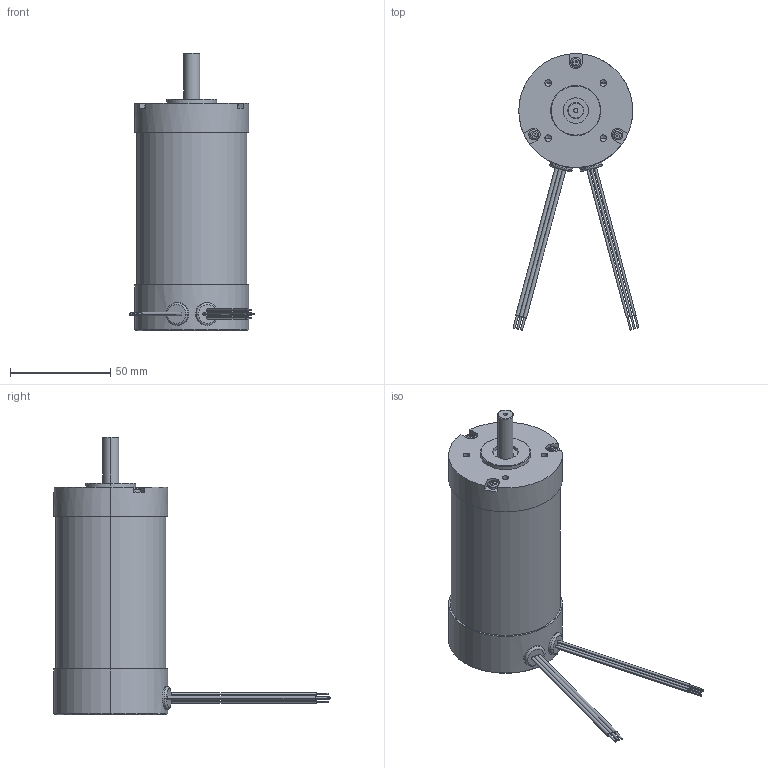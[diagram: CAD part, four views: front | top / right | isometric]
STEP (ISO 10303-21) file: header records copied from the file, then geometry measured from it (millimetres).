
FILE_DESCRIPTION (( 'STEP AP214' ), '1' );
FILE_NAME ('BLWR235S.STEP', '2013-07-24T21:49:08', ( '' ), ( '' ), 'SwSTEP 2.0', 'SolidWorks 2013', '' );
FILE_SCHEMA (( 'AUTOMOTIVE_DESIGN' ));
Length unit declared in the file: inch
Products named in the file (1): BLWR235S
Bounding box: 62.81 x 137.75 x 138.43 mm (x, y, z)
Volume: 277758.9 mm3; surface area: 30191.7 mm2
Topology: 1 solids, 1 shells, 277 faces, 677 edges, 429 vertices
Faces by surface type: plane 129, cylinder 106, cone 28, torus 14
Entity records: 12006 total; most frequent: CARTESIAN_POINT 1792, DIRECTION 1427, ORIENTED_EDGE 1326, EDGE_CURVE 663, AXIS2_PLACEMENT_3D 556, VERTEX_POINT 429, EDGE_LOOP 318, VECTOR 315
